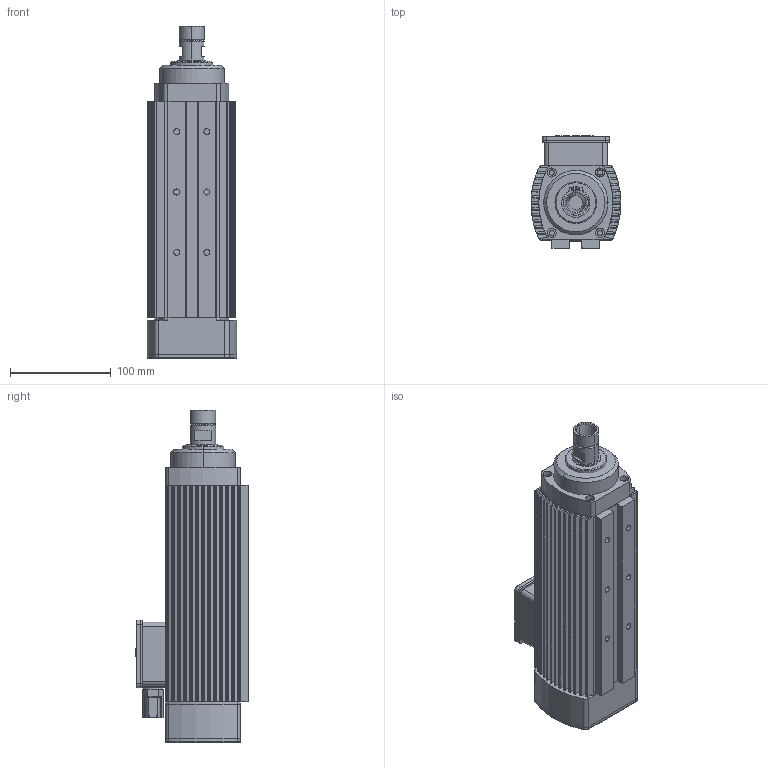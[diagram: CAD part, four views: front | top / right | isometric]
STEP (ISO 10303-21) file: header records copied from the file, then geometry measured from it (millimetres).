
FILE_DESCRIPTION (( 'STEP AP203' ), '1' );
FILE_NAME ('ARFM.2Y-L ER 20.STEP', '2021-08-06T05:47:09', ( '' ), ( '' ), 'SwSTEP 2.0', 'SolidWorks 2014', '' );
FILE_SCHEMA (( 'CONFIG_CONTROL_DESIGN' ));
Length unit declared in the file: millimetre
Products named in the file (12): 471-25 Sekman_98541A440; klemens kutusu; arfm.2y-l gövde; Klemens Kutusu; arfm.2y rulman toz kapak; ARFM.2Y-L ER 20; klemens kutusu kapaðý; arfm.2y arka kapak; arfm.2y rotor mili ER 20; arfm.2y-m arka hava kapak; pg 9 týrnaklý; arfm.2y ön kapak tek bilyalý
Assembly tree (11 placements, depth 3):
  ARFM.2Y-L ER 20
    arfm.2y-l gövde
    arfm.2y arka kapak
    arfm.2y ön kapak tek bilyalý
    arfm.2y rulman toz kapak
    arfm.2y-m arka hava kapak
    Klemens Kutusu
      klemens kutusu
      klemens kutusu kapaðý
      pg 9 týrnaklý
    arfm.2y rotor mili ER 20
    471-25 Sekman_98541A440
Bounding box: 89.3 x 112 x 330 mm (x, y, z)
Volume: 1781606.3 mm3; surface area: 252353.2 mm2
Topology: 10 solids, 10 shells, 770 faces, 2039 edges, 1329 vertices
Faces by surface type: cylinder 430, plane 316, torus 13, cone 6, bspline 5
Entity records: 25777 total; most frequent: CARTESIAN_POINT 4844, DIRECTION 4245, ORIENTED_EDGE 4078, EDGE_CURVE 2039, AXIS2_PLACEMENT_3D 1526, VERTEX_POINT 1329, LINE 1193, VECTOR 1193
